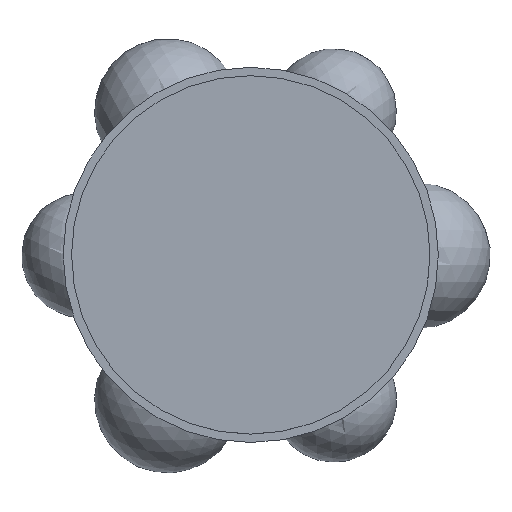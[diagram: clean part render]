
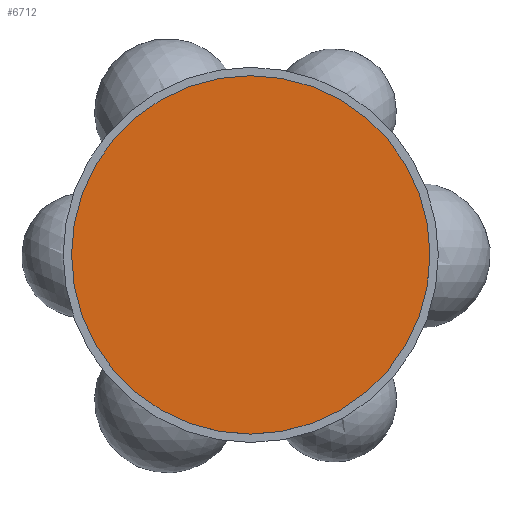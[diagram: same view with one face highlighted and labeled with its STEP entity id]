
A CAD part, top view. The second image highlights one B-rep face of the part: STEP entity #6712.
In plain terms, the highlighted planar face has unit normal (0, 0, 1).
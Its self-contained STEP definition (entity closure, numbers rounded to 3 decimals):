
#545=PLANE('',#7404);
#789=FACE_OUTER_BOUND('',#1324,.T.);
#1324=EDGE_LOOP('',(#4953));
#2496=CIRCLE('',#7403,430.);
#3060=VERTEX_POINT('',#11091);
#3777=EDGE_CURVE('',#3060,#3060,#2496,.T.);
#4953=ORIENTED_EDGE('',*,*,#3777,.F.);
#6712=ADVANCED_FACE('',(#789),#545,.F.);
#7403=AXIS2_PLACEMENT_3D('',#11093,#8820,#8821);
#7404=AXIS2_PLACEMENT_3D('',#11094,#8822,#8823);
#8820=DIRECTION('center_axis',(0.,0.,
-1.));
#8821=DIRECTION('ref_axis',(0.866,0.5,0.));
#8822=DIRECTION('center_axis',(0.,0.,
-1.));
#8823=DIRECTION('ref_axis',(0.866,0.5,0.));
#11091=CARTESIAN_POINT('',(-372.391,-215.,2271.445));
#11093=CARTESIAN_POINT('Origin',(0.,0.,
2271.445));
#11094=CARTESIAN_POINT('Origin',(0.,0.,
2271.445));
